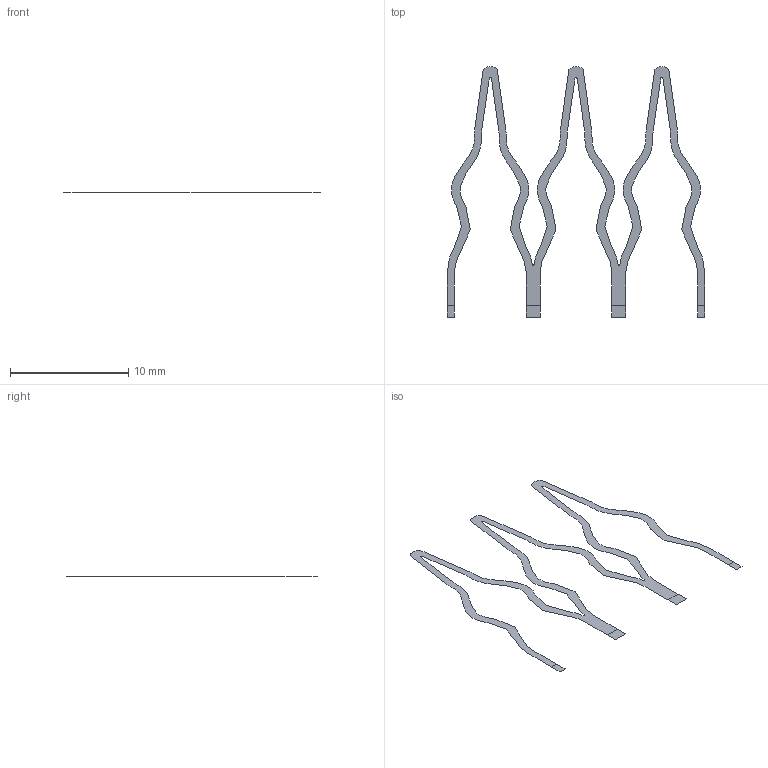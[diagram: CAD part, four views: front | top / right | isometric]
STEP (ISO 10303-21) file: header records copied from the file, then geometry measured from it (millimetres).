
FILE_DESCRIPTION(/* description */ (''),/* implementation_level */ '2;1');
FILE_NAME(/* name */ 'test2',/* time_stamp */ '2020-03-21T18:21:43-06:00',/* author */ (''),/* organization */ (''),/* preprocessor_version */ 'ST-DEVELOPER v15',/* originating_system */ '',/* authorisation */ '');
FILE_SCHEMA (('AUTOMOTIVE_DESIGN'));
Length unit declared in the file: millimetre
Products named in the file (1): Document
Bounding box: 21.78 x 21.22 x 0 mm (x, y, z)
Surface area: 85.2 mm2 (no closed solid volume)
Topology: 0 solids, 1 shells, 5 faces, 172 edges, 168 vertices
Faces by surface type: plane 5
Entity records: 1377 total; most frequent: CARTESIAN_POINT 793, ORIENTED_EDGE 176, EDGE_CURVE 172, VERTEX_POINT 168, DIRECTION 9, AXIS2_PLACEMENT_3D 7, ADVANCED_FACE 5, FACE_OUTER_BOUND 5
